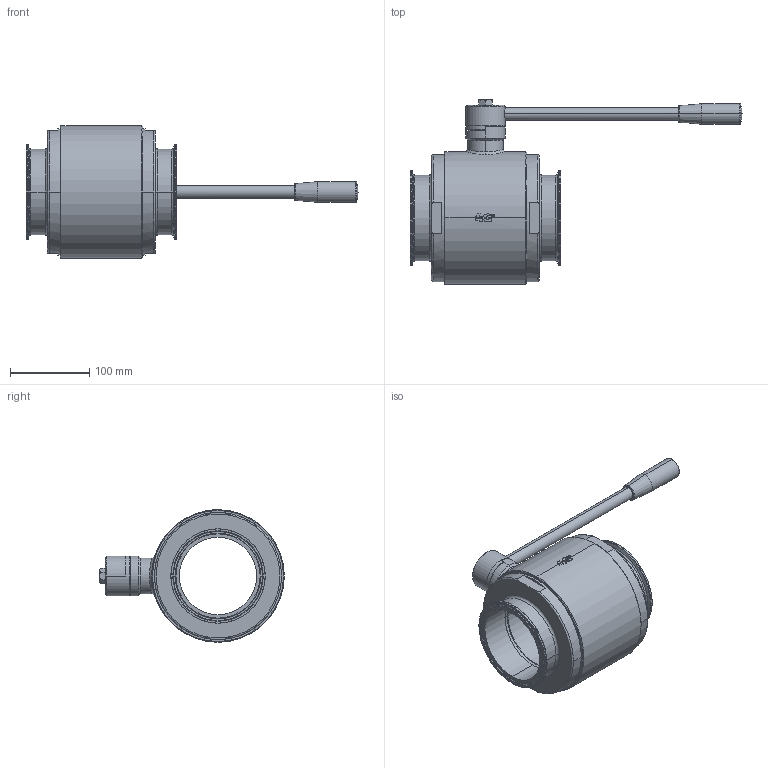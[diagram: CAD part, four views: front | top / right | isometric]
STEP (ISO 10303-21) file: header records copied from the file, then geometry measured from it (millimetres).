
FILE_DESCRIPTION((''),'2;1');
FILE_NAME('13013065410_SW0003','2025-04-09T14:34:21',('alfio.taboni'),('CDM Tecnoconsulting'),'CREO PARAMETRIC BY PTC INC, 2024063','CREO PARAMETRIC BY PTC INC, 2024063','');
FILE_SCHEMA(('CONFIG_CONTROL_DESIGN','SHAPE_APPEARANCE_LAYERS_GROUPS'));
Products named in the file (1): 13013065410_SW0003
Bounding box: 418 x 232.5 x 167 mm (x, y, z)
Volume: 2147333.5 mm3; surface area: 446114.7 mm2
Topology: 1 solids, 1 shells, 779 faces, 2053 edges, 1283 vertices
Faces by surface type: plane 306, cylinder 181, cone 109, torus 64, extrusion 56, bspline 49, sphere 14
Entity records: 48749 total; most frequent: CARTESIAN_POINT 22482, ORIENTED_EDGE 4070, DIRECTION 3519, PRESENTATION_STYLE_ASSIGNMENT 2263, STYLED_ITEM 2036, CURVE_STYLE 2035, EDGE_CURVE 2035, VERTEX_POINT 1283
